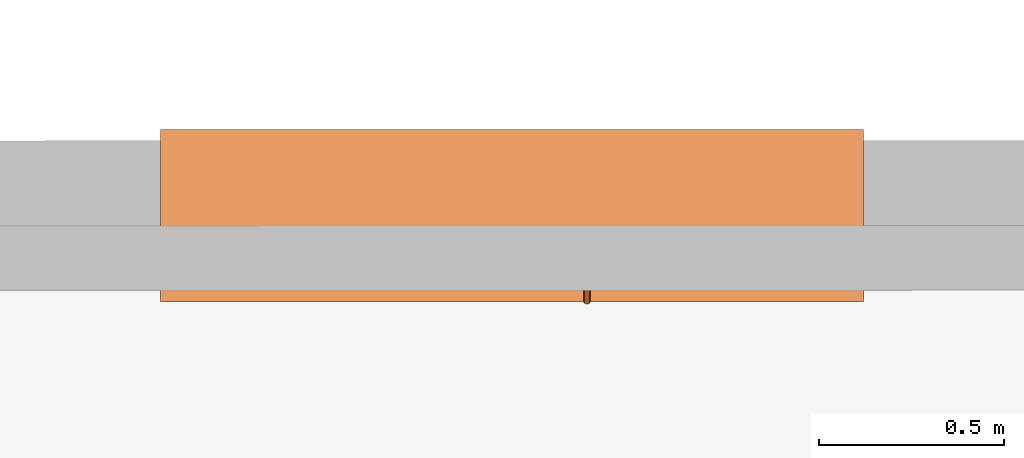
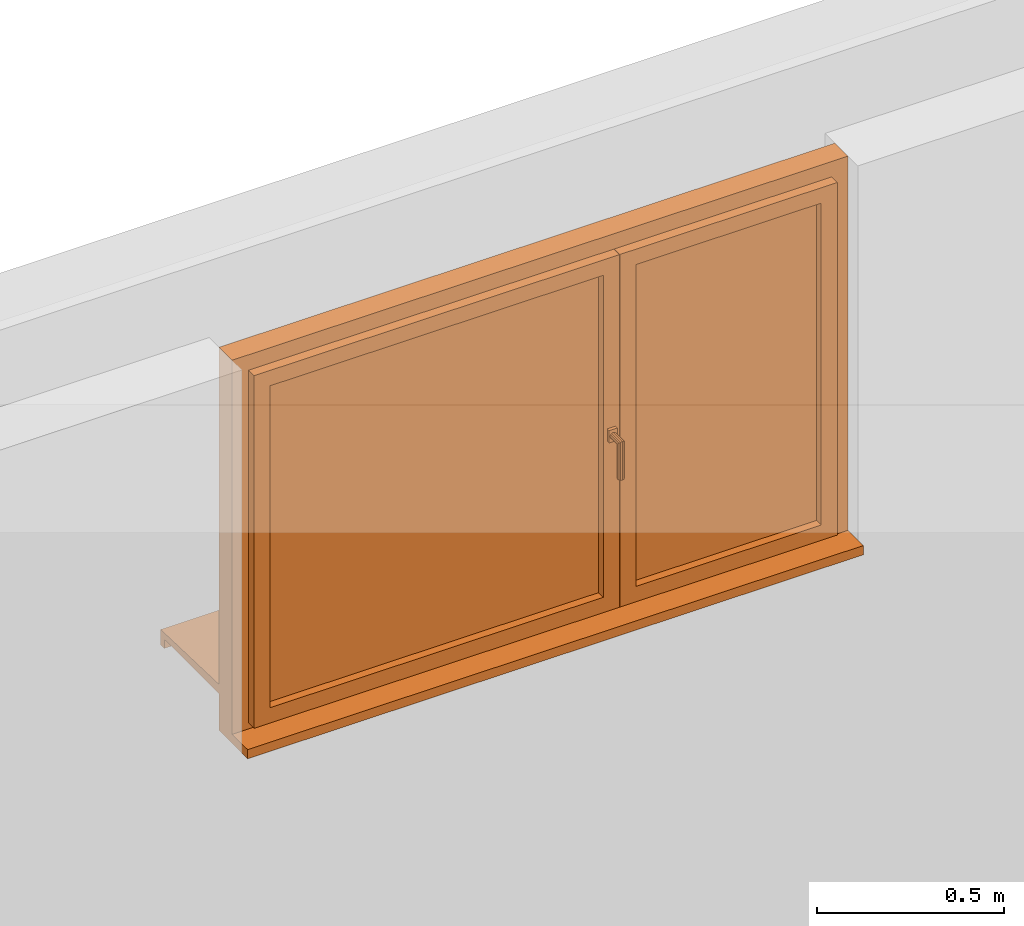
# One storey, part 9 of 9: 1 proxy.
"""IFC2X3 building model written with IfcOpenShell, lengths in metres."""

from ifc_helpers import new_model, entity, si_unit, converted_unit, derived_unit, direction, frame, origin, origin_with_axes, place, context, subcontext, project, spatial, closed_shell, open_shell, surface_model, source, transform, mapped, element, save


model = new_model("IFC2X3")

# Units and contexts
model_context = context("Model", 3, precision=1e-05, world=origin(), true_north=direction((0.772621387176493, -0.634867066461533)))
body_context = subcontext(model_context, "Body", "Model", "MODEL_VIEW")
ifc_project = project(units=[si_unit("LENGTHUNIT", "METRE"), si_unit("AREAUNIT", "SQUARE_METRE"), si_unit("VOLUMEUNIT", "CUBIC_METRE"), si_unit("MASSUNIT", "GRAM", prefix="KILO"), converted_unit("PLANEANGLEUNIT", "DEGREE", entity("IfcPlaneAngleMeasure", 0.0174532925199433), si_unit("PLANEANGLEUNIT", "RADIAN"), dimensions=[0, 0, 0, 0, 0, 0, 0]), derived_unit("THERMALTRANSMITTANCEUNIT", [(si_unit("POWERUNIT", "WATT"), 1), (si_unit("THERMODYNAMICTEMPERATUREUNIT", "KELVIN"), -1), (si_unit("LENGTHUNIT", "METRE"), -2)]), derived_unit("VOLUMETRICFLOWRATEUNIT", [(si_unit("LENGTHUNIT", "METRE"), 3), (converted_unit("TIMEUNIT", "hour", entity("IfcTimeMeasure", 3600.0), si_unit("TIMEUNIT", "SECOND"), dimensions=[0, 0, 1, 0, 0, 0, 0]), -1), (si_unit("LENGTHUNIT", "METRE"), -1)])], contexts=[model_context])

# Site, building, storey
site_placement = place(None, origin())
site = spatial("IfcSite", under=ifc_project, at=site_placement, Name="Modelle auf dem Nullpunkt", CompositionType="ELEMENT")
building_placement = place(site_placement, origin())
building = spatial("IfcBuilding", under=site, at=building_placement, Name="I", CompositionType="ELEMENT")
storey_placement = place(building_placement, origin())
storey = spatial("IfcBuildingStorey", under=building, at=storey_placement, Name="EG", CompositionType="ELEMENT", Elevation=0.0)

# Proxy
shared_shape = source(origin_with_axes(), body_context, "Body", "SurfaceModel", [
    surface_model("IfcShellBasedSurfaceModel", [(0.0, 0.020000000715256, 0.12), (0.0, 0.312500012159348, 0.12), (0.0, 0.312500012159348, 0.15), (0.0, 0.0, 0.14), (0.0, 0.0, 0.09), (0.0, 0.020000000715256, 0.09), (1.90000000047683, 0.312500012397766, 0.12), (1.90000000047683, 0.020000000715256, 0.12), (1.90000000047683, 0.020000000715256, 0.09), (1.90000000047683, 0.0, 0.09), (1.90000000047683, 0.0, 0.14), (1.90000000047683, 0.312500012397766, 0.15)], [closed_shell([[[0, 1, 2, 3, 4, 5]], [[6, 7, 8, 9, 10, 11]], [[1, 0, 7, 6]], [[2, 1, 6, 11]], [[3, 2, 11, 10]], [[4, 3, 10, 9]], [[5, 4, 9, 8]], [[0, 5, 8, 7]]], orient=[[False], [False], [False], [False], [False], [False], [False], [False]])]),
    surface_model("IfcShellBasedSurfaceModel", [(0.0, 0.465000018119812, 0.0), (0.0, 0.465000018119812, 0.03), (0.0, 0.352500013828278, 0.03), (0.0, 0.352500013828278, 0.0), (1.90000000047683, 0.352500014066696, 0.0), (1.90000000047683, 0.352500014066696, 0.03), (1.90000000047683, 0.465000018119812, 0.03), (1.90000000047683, 0.465000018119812, 0.0)], [closed_shell([[[0, 1, 2, 3]], [[4, 5, 6, 7]], [[3, 4, 7, 0]], [[2, 5, 4, 3]], [[1, 6, 5, 2]], [[0, 7, 6, 1]]], orient=[[False], [False], [False], [False], [False], [False]])]),
    surface_model("IfcShellBasedSurfaceModel", [(0.0, 0.382500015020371, 1.25), (0.0, 0.382500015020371, 0.0), (0.07, 0.382500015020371, 0.0), (0.07, 0.382500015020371, 1.25), (0.0, 0.312500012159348, 0.0), (0.0, 0.312500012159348, 1.25), (0.07, 0.312500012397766, 1.25), (0.07, 0.312500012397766, 0.0)], [closed_shell([[[0, 1, 2, 3]], [[4, 5, 6, 7]], [[1, 0, 5, 4]], [[2, 1, 4, 7]], [[3, 2, 7, 6]], [[0, 3, 6, 5]]], orient=[[False], [False], [False], [False], [False], [False]])]),
    surface_model("IfcShellBasedSurfaceModel", [(1.83000000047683, 0.382500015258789, 1.25), (1.83000000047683, 0.382500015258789, 0.0), (1.90000000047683, 0.382500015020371, 0.0), (1.90000000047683, 0.382500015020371, 1.25), (1.83000000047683, 0.312500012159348, 0.0), (1.83000000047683, 0.312500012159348, 1.25), (1.90000000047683, 0.312500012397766, 1.25), (1.90000000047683, 0.312500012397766, 0.0)], [closed_shell([[[0, 1, 2, 3]], [[4, 5, 6, 7]], [[1, 0, 5, 4]], [[2, 1, 4, 7]], [[3, 2, 7, 6]], [[0, 3, 6, 5]]], orient=[[False], [False], [False], [False], [False], [False]])]),
    surface_model("IfcShellBasedSurfaceModel", [(0.07, 0.382500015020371, 0.07), (0.07, 0.382500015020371, 0.0), (1.83000000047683, 0.382500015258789, 0.0), (1.83000000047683, 0.382500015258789, 0.07), (0.07, 0.312500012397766, 0.0), (0.07, 0.312500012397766, 0.07), (1.83000000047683, 0.312500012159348, 0.07), (1.83000000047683, 0.312500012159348, 0.0)], [closed_shell([[[0, 1, 2, 3]], [[4, 5, 6, 7]], [[1, 0, 5, 4]], [[2, 1, 4, 7]], [[3, 2, 7, 6]], [[0, 3, 6, 5]]], orient=[[False], [False], [False], [False], [False], [False]])]),
    surface_model("IfcShellBasedSurfaceModel", [(0.07, 0.382500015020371, 1.25), (0.07, 0.382500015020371, 1.18), (1.83000000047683, 0.382500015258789, 1.18), (1.83000000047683, 0.382500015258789, 1.25), (0.07, 0.312500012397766, 1.18), (0.07, 0.312500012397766, 1.25), (1.83000000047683, 0.312500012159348, 1.25), (1.83000000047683, 0.312500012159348, 1.18)], [closed_shell([[[0, 1, 2, 3]], [[4, 5, 6, 7]], [[1, 0, 5, 4]], [[2, 1, 4, 7]], [[3, 2, 7, 6]], [[0, 3, 6, 5]]], orient=[[False], [False], [False], [False], [False], [False]])]),
    surface_model("IfcShellBasedSurfaceModel", [(0.0499999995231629, 0.412500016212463, 1.2), (0.0499999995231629, 0.412500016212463, 0.05), (0.1, 0.412500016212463, 0.05), (0.1, 0.412500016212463, 1.2), (0.05, 0.362500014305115, 0.05), (0.05, 0.362500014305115, 1.2), (0.1, 0.362500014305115, 1.2), (0.1, 0.362500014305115, 0.05)], [closed_shell([[[0, 1, 2, 3]], [[4, 5, 6, 7]], [[1, 0, 5, 4]], [[2, 1, 4, 7]], [[3, 2, 7, 6]], [[0, 3, 6, 5]]], orient=[[False], [False], [False], [False], [False], [False]])]),
    surface_model("IfcShellBasedSurfaceModel", [(0.671351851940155, 0.412500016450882, 1.2), (0.671351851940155, 0.412500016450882, 0.05), (0.721351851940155, 0.412500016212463, 0.05), (0.721351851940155, 0.412500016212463, 1.2), (0.671351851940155, 0.362500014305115, 0.05), (0.671351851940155, 0.362500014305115, 1.2), (0.721351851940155, 0.362500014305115, 1.2), (0.721351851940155, 0.362500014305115, 0.05)], [closed_shell([[[0, 1, 2, 3]], [[4, 5, 6, 7]], [[1, 0, 5, 4]], [[2, 1, 4, 7]], [[3, 2, 7, 6]], [[0, 3, 6, 5]]], orient=[[False], [False], [False], [False], [False], [False]])]),
    surface_model("IfcShellBasedSurfaceModel", [(0.1, 0.412500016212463, 0.1), (0.1, 0.412500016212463, 0.05), (0.671351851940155, 0.412500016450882, 0.05), (0.671351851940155, 0.412500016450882, 0.1), (0.1, 0.362500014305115, 0.05), (0.1, 0.362500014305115, 0.1), (0.671351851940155, 0.362500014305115, 0.1), (0.671351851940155, 0.362500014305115, 0.05)], [closed_shell([[[0, 1, 2, 3]], [[4, 5, 6, 7]], [[1, 0, 5, 4]], [[2, 1, 4, 7]], [[3, 2, 7, 6]], [[0, 3, 6, 5]]], orient=[[False], [False], [False], [False], [False], [False]])]),
    surface_model("IfcShellBasedSurfaceModel", [(0.1, 0.412500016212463, 1.2), (0.1, 0.412500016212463, 1.15), (0.671351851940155, 0.412500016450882, 1.15), (0.671351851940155, 0.412500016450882, 1.2), (0.1, 0.362500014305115, 1.15), (0.1, 0.362500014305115, 1.2), (0.671351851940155, 0.362500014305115, 1.2), (0.671351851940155, 0.362500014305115, 1.15)], [closed_shell([[[0, 1, 2, 3]], [[4, 5, 6, 7]], [[1, 0, 5, 4]], [[2, 1, 4, 7]], [[3, 2, 7, 6]], [[0, 3, 6, 5]]], orient=[[False], [False], [False], [False], [False], [False]])]),
    surface_model("IfcShellBasedSurfaceModel", [(0.696351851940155, 0.362500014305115, 1.18), (0.696351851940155, 0.362500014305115, 0.07), (0.746351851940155, 0.362500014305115, 0.07), (0.746351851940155, 0.362500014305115, 1.18), (0.696351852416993, 0.337500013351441, 0.07), (0.696351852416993, 0.337500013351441, 1.18), (0.746351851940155, 0.337500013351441, 1.18), (0.746351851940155, 0.337500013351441, 0.07)], [closed_shell([[[0, 1, 2, 3]], [[4, 5, 6, 7]], [[1, 0, 5, 4]], [[2, 1, 4, 7]], [[3, 2, 7, 6]], [[0, 3, 6, 5]]], orient=[[False], [False], [False], [False], [False], [False]])]),
    surface_model("IfcShellBasedSurfaceModel", [(0.722351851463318, 0.412500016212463, 1.2), (0.722351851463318, 0.412500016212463, 0.05), (0.772351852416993, 0.412500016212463, 0.05), (0.772351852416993, 0.412500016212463, 1.2), (0.722351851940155, 0.362500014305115, 0.05), (0.722351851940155, 0.362500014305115, 1.2), (0.772351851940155, 0.362500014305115, 1.2), (0.772351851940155, 0.362500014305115, 0.05)], [closed_shell([[[0, 1, 2, 3]], [[4, 5, 6, 7]], [[1, 0, 5, 4]], [[2, 1, 4, 7]], [[3, 2, 7, 6]], [[0, 3, 6, 5]]], orient=[[False], [False], [False], [False], [False], [False]])]),
    surface_model("IfcShellBasedSurfaceModel", [(1.80000000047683, 0.412500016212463, 1.2), (1.80000000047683, 0.412500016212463, 0.05), (1.85000000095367, 0.412500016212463, 0.05), (1.85000000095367, 0.412500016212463, 1.2), (1.80000000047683, 0.362500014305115, 0.05), (1.80000000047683, 0.362500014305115, 1.2), (1.85000000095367, 0.362500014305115, 1.2), (1.85000000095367, 0.362500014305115, 0.05)], [closed_shell([[[0, 1, 2, 3]], [[4, 5, 6, 7]], [[1, 0, 5, 4]], [[2, 1, 4, 7]], [[3, 2, 7, 6]], [[0, 3, 6, 5]]], orient=[[False], [False], [False], [False], [False], [False]])]),
    surface_model("IfcShellBasedSurfaceModel", [(0.772351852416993, 0.412500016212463, 0.1), (0.772351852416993, 0.412500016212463, 0.05), (1.80000000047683, 0.412500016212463, 0.05), (1.80000000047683, 0.412500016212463, 0.1), (0.772351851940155, 0.362500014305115, 0.05), (0.772351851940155, 0.362500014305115, 0.1), (1.80000000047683, 0.362500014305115, 0.1), (1.80000000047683, 0.362500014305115, 0.05)], [closed_shell([[[0, 1, 2, 3]], [[4, 5, 6, 7]], [[1, 0, 5, 4]], [[2, 1, 4, 7]], [[3, 2, 7, 6]], [[0, 3, 6, 5]]], orient=[[False], [False], [False], [False], [False], [False]])]),
    surface_model("IfcShellBasedSurfaceModel", [(0.772351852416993, 0.412500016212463, 1.2), (0.772351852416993, 0.412500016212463, 1.15), (1.80000000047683, 0.412500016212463, 1.15), (1.80000000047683, 0.412500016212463, 1.2), (0.772351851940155, 0.362500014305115, 1.15), (0.772351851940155, 0.362500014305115, 1.2), (1.80000000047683, 0.362500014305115, 1.2), (1.80000000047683, 0.362500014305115, 1.15)], [closed_shell([[[0, 1, 2, 3]], [[4, 5, 6, 7]], [[1, 0, 5, 4]], [[2, 1, 4, 7]], [[3, 2, 7, 6]], [[0, 3, 6, 5]]], orient=[[False], [False], [False], [False], [False], [False]])]),
    surface_model("IfcShellBasedSurfaceModel", [(0.734851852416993, 0.412500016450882, 0.645), (0.759851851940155, 0.412500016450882, 0.645), (0.759851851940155, 0.412500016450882, 0.605), (0.734851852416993, 0.412500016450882, 0.605), (0.734851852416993, 0.422500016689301, 0.605), (0.759851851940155, 0.422500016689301, 0.605), (0.759851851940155, 0.422500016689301, 0.645), (0.734851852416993, 0.422500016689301, 0.645)], [closed_shell([[[0, 1, 2, 3]], [[4, 5, 6, 7]], [[3, 4, 7, 0]], [[2, 5, 4, 3]], [[1, 6, 5, 2]], [[0, 7, 6, 1]]], orient=[[False], [False], [False], [False], [False], [False]])]),
    surface_model("IfcShellBasedSurfaceModel", [(0.757351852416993, 0.422500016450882, 0.625), (0.756012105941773, 0.422500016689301, 0.62), (0.752351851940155, 0.422500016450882, 0.616339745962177), (0.747351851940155, 0.422500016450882, 0.615), (0.742351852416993, 0.422500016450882, 0.616339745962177), (0.738691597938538, 0.422500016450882, 0.62), (0.737351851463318, 0.422500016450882, 0.625), (0.738691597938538, 0.422500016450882, 0.63), (0.742351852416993, 0.422500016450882, 0.633660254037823), (0.747351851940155, 0.422500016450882, 0.635), (0.752351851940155, 0.422500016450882, 0.633660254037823), (0.756012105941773, 0.422500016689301, 0.63), (0.756012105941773, 0.467500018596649, 0.63), (0.757351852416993, 0.462500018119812, 0.625), (0.752351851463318, 0.471160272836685, 0.633660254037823), (0.747351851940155, 0.472500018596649, 0.635), (0.742351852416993, 0.471160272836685, 0.633660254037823), (0.738691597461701, 0.467500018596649, 0.63), (0.737351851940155, 0.462500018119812, 0.625), (0.738691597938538, 0.457500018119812, 0.62), (0.742351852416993, 0.453839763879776, 0.616339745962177), (0.747351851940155, 0.452500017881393, 0.615), (0.752351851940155, 0.453839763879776, 0.616339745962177), (0.756012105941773, 0.457500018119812, 0.62), (0.757351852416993, 0.462500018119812, 0.51), (0.756012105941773, 0.467500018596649, 0.51), (0.752351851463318, 0.471160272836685, 0.51), (0.747351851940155, 0.472500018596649, 0.51), (0.742351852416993, 0.471160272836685, 0.51), (0.738691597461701, 0.467500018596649, 0.51), (0.737351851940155, 0.462500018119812, 0.51), (0.738691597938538, 0.457500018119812, 0.51), (0.742351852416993, 0.453839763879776, 0.51), (0.747351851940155, 0.452500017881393, 0.51), (0.752351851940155, 0.453839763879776, 0.51), (0.756012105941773, 0.457500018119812, 0.51)], [closed_shell([[[0, 1, 2, 3, 4, 5, 6, 7, 8, 9, 10, 11]], [[0, 11, 12, 13]], [[11, 10, 14, 12]], [[10, 9, 15, 14]], [[9, 8, 16, 15]], [[8, 7, 17, 16]], [[7, 6, 18, 17]], [[6, 5, 19, 18]], [[5, 4, 20, 19]], [[4, 3, 21, 20]], [[3, 2, 22, 21]], [[2, 1, 23, 22]], [[1, 0, 13, 23]], [[24, 25, 26, 27, 28, 29, 30, 31, 32, 33, 34, 35]], [[13, 12, 25, 24]], [[12, 14, 26, 25]], [[14, 15, 27, 26]], [[15, 16, 28, 27]], [[16, 17, 29, 28]], [[17, 18, 30, 29]], [[18, 19, 31, 30]], [[19, 20, 32, 31]], [[20, 21, 33, 32]], [[21, 22, 34, 33]], [[22, 23, 35, 34]], [[23, 13, 24, 35]]], orient=[[False], [False], [False], [False], [False], [False], [False], [False], [False], [False], [False], [False], [False], [False], [False], [False], [False], [False], [False], [False], [False], [False], [False], [False], [False], [False]])]),
    surface_model("IfcShellBasedSurfaceModel", [(0.100000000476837, 0.387500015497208, 0.1), (0.671351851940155, 0.387500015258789, 0.1), (0.671351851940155, 0.387500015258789, 1.15), (0.100000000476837, 0.387500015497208, 1.15)], [open_shell([[[0, 1, 2, 3]]], orient=[[False]])]),
    surface_model("IfcShellBasedSurfaceModel", [(0.772351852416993, 0.387500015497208, 0.1), (1.80000000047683, 0.387500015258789, 0.1), (1.80000000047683, 0.387500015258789, 1.15), (0.772351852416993, 0.387500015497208, 1.15)], [open_shell([[[0, 1, 2, 3]]], orient=[[False]])]),
])
proxy_placement = place(storey_placement, frame((39.7468552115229, 2.40028323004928, 437.29), z_axis=(0.0, 0.0, 1.0), x_axis=(-0.999999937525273, -0.000353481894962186, 0.0)))
element("IfcBuildingElementProxy", 1, at=proxy_placement, inside=storey, Name="2flg Weiß Stulp", context=body_context, shape_type="MappedRepresentation", body=[
    mapped(shared_shape, transform((0.0, 0.0, 0.0), x_axis=(1.0, 0.0, 0.0), y_axis=(0.0, 1.0, 0.0), z_axis=(0.0, 0.0, 1.0), scale=1.0)),
])

save(model, "model.ifc")
